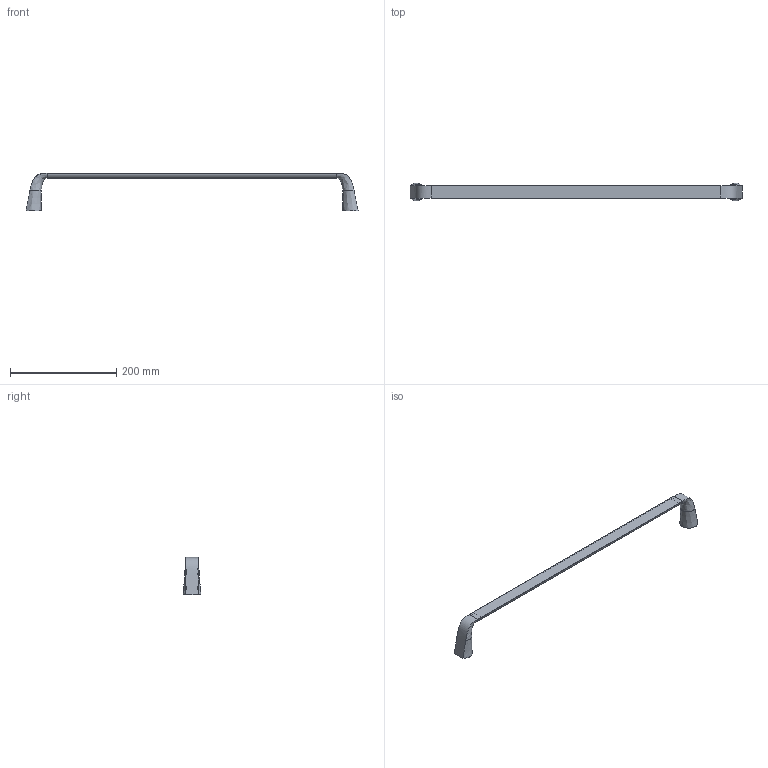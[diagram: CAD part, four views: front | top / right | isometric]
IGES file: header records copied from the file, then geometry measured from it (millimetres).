
Global section: file name: f754ea73-40dc-4d26-9df4-5426d0208053; native system: unknown; preprocessor: unknown; author: unknown; organization: unknown; date: 20200107.145346; units: millimetre
Bounding box: 625.42 x 33.68 x 70 mm (x, y, z)
Volume: 64897.8 mm3; surface area: 85572.3 mm2
Topology: 7 solids, 7 shells, 138 faces, 340 edges, 222 vertices
Faces by surface type: bspline 138
